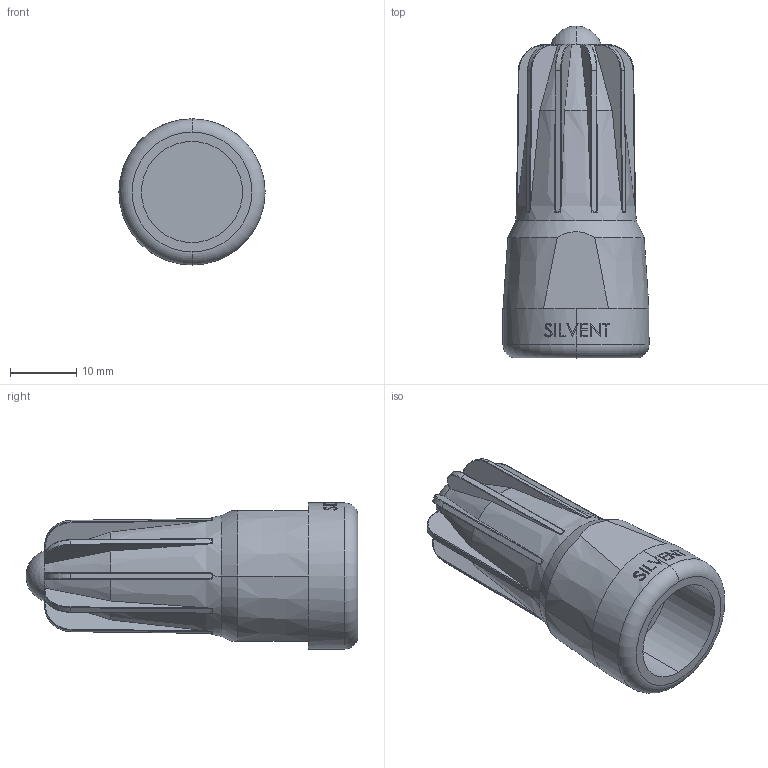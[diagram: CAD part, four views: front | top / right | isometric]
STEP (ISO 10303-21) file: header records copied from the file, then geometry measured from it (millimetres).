
FILE_DESCRIPTION (( 'STEP AP203' ), '1' );
FILE_NAME ('Silvent 208.STEP', '2003-09-23T11:34:44', ( 'Ulf Persson' ), ( '' ), 'SwSTEP 2.0', 'SolidWorks 2003099', '' );
FILE_SCHEMA (( 'CONFIG_CONTROL_DESIGN' ));
Length unit declared in the file: millimetre
Products named in the file (1): Silvent 208
Bounding box: 22.1 x 50.2 x 22.1 mm (x, y, z)
Volume: 10440.5 mm3; surface area: 4385.5 mm2
Topology: 1 solids, 1 shells, 259 faces, 660 edges, 410 vertices
Faces by surface type: plane 135, cylinder 66, torus 24, cone 17, bspline 15, sphere 2
Entity records: 9254 total; most frequent: CARTESIAN_POINT 3341, ORIENTED_EDGE 1320, DIRECTION 1111, EDGE_CURVE 660, VERTEX_POINT 410, AXIS2_PLACEMENT_3D 406, LINE 299, VECTOR 299
